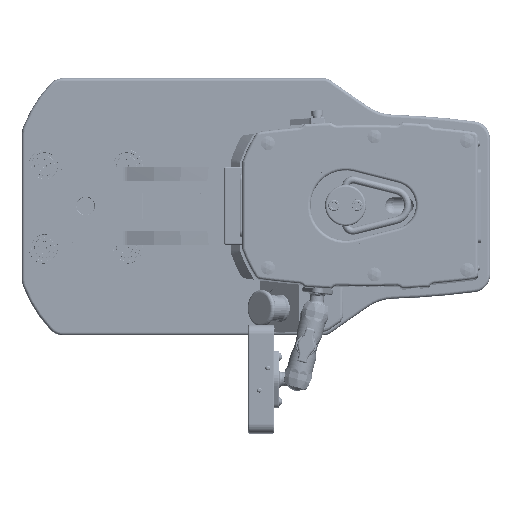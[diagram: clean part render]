
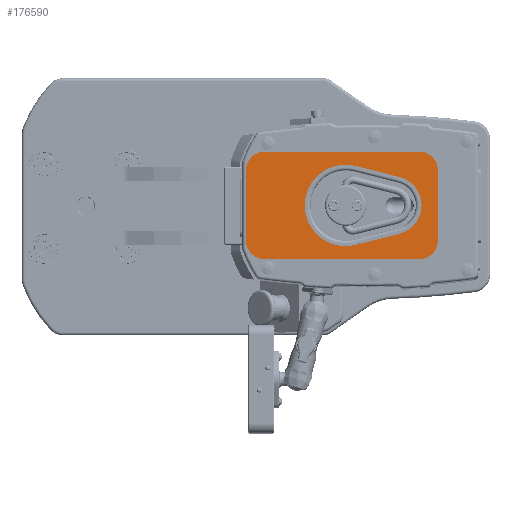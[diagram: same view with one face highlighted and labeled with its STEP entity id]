
A CAD part, top view. The second image highlights one B-rep face of the part: STEP entity #176590.
In plain terms, the highlighted planar face has unit normal (0, 0, 1).
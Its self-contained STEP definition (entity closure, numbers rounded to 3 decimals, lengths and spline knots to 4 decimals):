
#3043=FACE_BOUND('',#14058,.T.);
#4948=FACE_OUTER_BOUND('',#14057,.T.);
#14057=EDGE_LOOP('',(#121150,#121151,#121152,#121153,#121154,#121155,#121156,
#121157));
#14058=EDGE_LOOP('',(#121158,#121159,#121160,#121161));
#23342=CIRCLE('',#186401,0.8);
#23343=CIRCLE('',#186402,0.8);
#23344=CIRCLE('',#186403,0.8);
#23345=CIRCLE('',#186404,0.8);
#23346=CIRCLE('',#186405,1.744);
#23347=CIRCLE('',#186406,1.25);
#28512=LINE('',#251367,#50804);
#28513=LINE('',#251371,#50805);
#28514=LINE('',#251375,#50806);
#28515=LINE('',#251378,#50807);
#28516=LINE('',#251383,#50808);
#28517=LINE('',#251386,#50809);
#50804=VECTOR('',#203504,1.);
#50805=VECTOR('',#203507,1.);
#50806=VECTOR('',#203510,1.);
#50807=VECTOR('',#203513,1.);
#50808=VECTOR('',#203516,1.);
#50809=VECTOR('',#203519,1.);
#72960=VERTEX_POINT('',#251363);
#72961=VERTEX_POINT('',#251364);
#72962=VERTEX_POINT('',#251366);
#72963=VERTEX_POINT('',#251368);
#72964=VERTEX_POINT('',#251370);
#72965=VERTEX_POINT('',#251372);
#72966=VERTEX_POINT('',#251374);
#72967=VERTEX_POINT('',#251376);
#72968=VERTEX_POINT('',#251379);
#72969=VERTEX_POINT('',#251380);
#72970=VERTEX_POINT('',#251382);
#72971=VERTEX_POINT('',#251384);
#92384=EDGE_CURVE('',#72960,#72961,#23342,.T.);
#92385=EDGE_CURVE('',#72961,#72962,#28512,.T.);
#92386=EDGE_CURVE('',#72962,#72963,#23343,.T.);
#92387=EDGE_CURVE('',#72963,#72964,#28513,.T.);
#92388=EDGE_CURVE('',#72964,#72965,#23344,.T.);
#92389=EDGE_CURVE('',#72965,#72966,#28514,.T.);
#92390=EDGE_CURVE('',#72966,#72967,#23345,.T.);
#92391=EDGE_CURVE('',#72967,#72960,#28515,.T.);
#92392=EDGE_CURVE('',#72968,#72969,#23346,.T.);
#92393=EDGE_CURVE('',#72969,#72970,#28516,.T.);
#92394=EDGE_CURVE('',#72970,#72971,#23347,.T.);
#92395=EDGE_CURVE('',#72971,#72968,#28517,.T.);
#121150=ORIENTED_EDGE('',*,*,#92384,.T.);
#121151=ORIENTED_EDGE('',*,*,#92385,.T.);
#121152=ORIENTED_EDGE('',*,*,#92386,.T.);
#121153=ORIENTED_EDGE('',*,*,#92387,.T.);
#121154=ORIENTED_EDGE('',*,*,#92388,.T.);
#121155=ORIENTED_EDGE('',*,*,#92389,.T.);
#121156=ORIENTED_EDGE('',*,*,#92390,.T.);
#121157=ORIENTED_EDGE('',*,*,#92391,.T.);
#121158=ORIENTED_EDGE('',*,*,#92392,.T.);
#121159=ORIENTED_EDGE('',*,*,#92393,.T.);
#121160=ORIENTED_EDGE('',*,*,#92394,.T.);
#121161=ORIENTED_EDGE('',*,*,#92395,.T.);
#169128=PLANE('',#186400);
#176590=ADVANCED_FACE('',(#4948,#3043),#169128,.T.);
#186400=AXIS2_PLACEMENT_3D('',#251362,#203500,#203501);
#186401=AXIS2_PLACEMENT_3D('',#251365,#203502,#203503);
#186402=AXIS2_PLACEMENT_3D('',#251369,#203505,#203506);
#186403=AXIS2_PLACEMENT_3D('',#251373,#203508,#203509);
#186404=AXIS2_PLACEMENT_3D('',#251377,#203511,#203512);
#186405=AXIS2_PLACEMENT_3D('',#251381,#203514,#203515);
#186406=AXIS2_PLACEMENT_3D('',#251385,#203517,#203518);
#203500=DIRECTION('center_axis',(0.,0.,
1.));
#203501=DIRECTION('ref_axis',(0.,1.,0.));
#203502=DIRECTION('center_axis',(0.,0.,
1.));
#203503=DIRECTION('ref_axis',(0.,-1.,0.));
#203504=DIRECTION('',(0.,1.,0.));
#203505=DIRECTION('center_axis',(0.,0.,
1.));
#203506=DIRECTION('ref_axis',(1.,0.,0.));
#203507=DIRECTION('',(-1.,0.,0.));
#203508=DIRECTION('center_axis',(0.,0.,
1.));
#203509=DIRECTION('ref_axis',(0.,1.,0.));
#203510=DIRECTION('',(0.,-1.,0.));
#203511=DIRECTION('center_axis',(0.,0.,
1.));
#203512=DIRECTION('ref_axis',(-1.,0.,0.));
#203513=DIRECTION('',(1.,0.,0.));
#203514=DIRECTION('center_axis',(0.,0.,
-1.));
#203515=DIRECTION('ref_axis',(0.247,0.969,0.));
#203516=DIRECTION('',(0.969,-0.247,0.));
#203517=DIRECTION('center_axis',(0.,0.,
-1.));
#203518=DIRECTION('ref_axis',(0.247,-0.969,0.));
#203519=DIRECTION('',(-0.969,-0.247,0.));
#251362=CARTESIAN_POINT('Origin',(18.6818,36.2456,40.2597));
#251363=CARTESIAN_POINT('',(21.9818,33.9456,40.2597));
#251364=CARTESIAN_POINT('',(22.7818,34.7456,40.2597));
#251365=CARTESIAN_POINT('Origin',(21.9818,34.7456,40.2597));
#251366=CARTESIAN_POINT('',(22.7818,37.7456,40.2597));
#251367=CARTESIAN_POINT('',(22.7818,34.7456,40.2597));
#251368=CARTESIAN_POINT('',(21.9818,38.5456,40.2597));
#251369=CARTESIAN_POINT('Origin',(21.9818,37.7456,40.2597));
#251370=CARTESIAN_POINT('',(15.3818,38.5456,40.2597));
#251371=CARTESIAN_POINT('',(21.9818,38.5456,40.2597));
#251372=CARTESIAN_POINT('',(14.5818,37.7456,40.2597));
#251373=CARTESIAN_POINT('Origin',(15.3818,37.7456,40.2597));
#251374=CARTESIAN_POINT('',(14.5818,34.7456,40.2597));
#251375=CARTESIAN_POINT('',(14.5818,37.7456,40.2597));
#251376=CARTESIAN_POINT('',(15.3818,33.9456,40.2597));
#251377=CARTESIAN_POINT('Origin',(15.3818,34.7456,40.2597));
#251378=CARTESIAN_POINT('',(15.3818,33.9456,40.2597));
#251379=CARTESIAN_POINT('',(19.2666,34.5557,40.2597));
#251380=CARTESIAN_POINT('',(19.2666,37.9356,40.2597));
#251381=CARTESIAN_POINT('Origin',(18.8359,36.2456,40.2597));
#251382=CARTESIAN_POINT('',(21.1446,37.4569,40.2597));
#251383=CARTESIAN_POINT('',(20.1333,37.7147,40.2597));
#251384=CARTESIAN_POINT('',(21.1446,35.0344,40.2597));
#251385=CARTESIAN_POINT('Origin',(20.8359,36.2456,40.2597));
#251386=CARTESIAN_POINT('',(19.1943,34.5372,40.2597));
